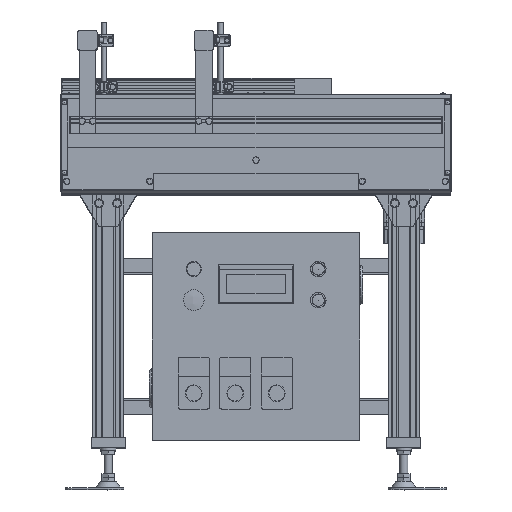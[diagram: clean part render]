
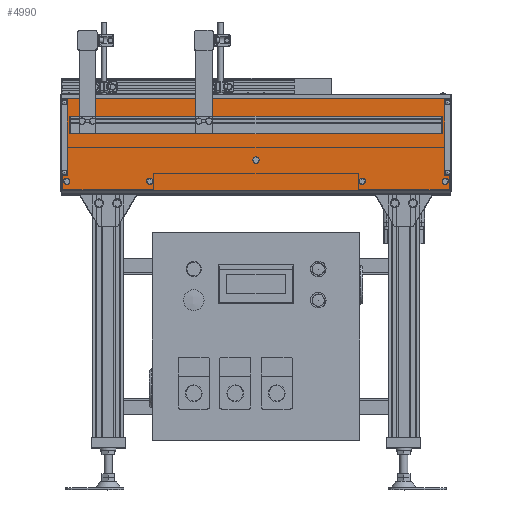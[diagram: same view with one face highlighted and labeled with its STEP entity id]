
A CAD part, top view. The second image highlights one B-rep face of the part: STEP entity #4990.
In plain terms, the highlighted planar face has unit normal (0, 0, 1).
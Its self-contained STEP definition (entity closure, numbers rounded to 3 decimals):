
#4990=ADVANCED_FACE('',(#32069,#32070,#32071,#32072,#32073,#32074,#32075),#32068,.F.);
#32068=PLANE('',#59123);
#32069=FACE_OUTER_BOUND('',#59124,.T.);
#32070=FACE_BOUND('',#59125,.T.);
#32071=FACE_BOUND('',#59126,.T.);
#32072=FACE_BOUND('',#59127,.T.);
#32073=FACE_BOUND('',#59128,.T.);
#32074=FACE_BOUND('',#59129,.T.);
#32075=FACE_BOUND('',#59130,.T.);
#59120=CARTESIAN_POINT('',(760.,-184.,388.3));
#59121=DIRECTION('',(0.,0.,-1.));
#59122=DIRECTION('',(-1.,0.,0.));
#59123=AXIS2_PLACEMENT_3D('',#59120,#59121,#59122);
#59124=EDGE_LOOP('',(#79356,#79357,#79358,#79359));
#59125=EDGE_LOOP('',(#79360,#79361));
#59126=EDGE_LOOP('',(#79362,#79363));
#59127=EDGE_LOOP('',(#79364,#79365));
#59128=EDGE_LOOP('',(#79366,#79367));
#59129=EDGE_LOOP('',(#79368,#79369));
#59130=EDGE_LOOP('',(#79370,#79371,#79372,#79373));
#79356=ORIENTED_EDGE('',*,*,#93056,.T.);
#79357=ORIENTED_EDGE('',*,*,#93099,.T.);
#79358=ORIENTED_EDGE('',*,*,#93114,.F.);
#79359=ORIENTED_EDGE('',*,*,#93092,.F.);
#79360=ORIENTED_EDGE('',*,*,#93115,.F.);
#79361=ORIENTED_EDGE('',*,*,#93116,.F.);
#79362=ORIENTED_EDGE('',*,*,#93117,.F.);
#79363=ORIENTED_EDGE('',*,*,#93118,.F.);
#79364=ORIENTED_EDGE('',*,*,#93119,.T.);
#79365=ORIENTED_EDGE('',*,*,#93120,.T.);
#79366=ORIENTED_EDGE('',*,*,#93121,.T.);
#79367=ORIENTED_EDGE('',*,*,#93122,.T.);
#79368=ORIENTED_EDGE('',*,*,#93123,.F.);
#79369=ORIENTED_EDGE('',*,*,#93124,.F.);
#79370=ORIENTED_EDGE('',*,*,#93125,.F.);
#79371=ORIENTED_EDGE('',*,*,#93126,.F.);
#79372=ORIENTED_EDGE('',*,*,#93127,.F.);
#79373=ORIENTED_EDGE('',*,*,#93128,.F.);
#93056=EDGE_CURVE('',#141370,#141363,#141371,.T.);
#93092=EDGE_CURVE('',#141370,#141615,#141616,.T.);
#93099=EDGE_CURVE('',#141363,#141663,#141664,.T.);
#93114=EDGE_CURVE('',#141615,#141663,#141759,.T.);
#93115=EDGE_CURVE('',#141765,#141766,#141767,.T.);
#93116=EDGE_CURVE('',#141766,#141765,#141773,.T.);
#93117=EDGE_CURVE('',#141779,#141780,#141781,.T.);
#93118=EDGE_CURVE('',#141780,#141779,#141787,.T.);
#93119=EDGE_CURVE('',#141793,#141794,#141795,.T.);
#93120=EDGE_CURVE('',#141794,#141793,#141801,.T.);
#93121=EDGE_CURVE('',#141807,#141808,#141809,.T.);
#93122=EDGE_CURVE('',#141808,#141807,#141815,.T.);
#93123=EDGE_CURVE('',#141821,#141822,#141823,.T.);
#93124=EDGE_CURVE('',#141822,#141821,#141829,.T.);
#93125=EDGE_CURVE('',#141835,#141836,#141837,.T.);
#93126=EDGE_CURVE('',#141843,#141835,#141844,.T.);
#93127=EDGE_CURVE('',#141850,#141843,#141851,.T.);
#93128=EDGE_CURVE('',#141836,#141850,#141857,.T.);
#141363=VERTEX_POINT('',#192411);
#141370=VERTEX_POINT('',#192415);
#141371=LINE('',#192416,#192417);
#141615=VERTEX_POINT('',#192560);
#141616=LINE('',#192561,#192562);
#141663=VERTEX_POINT('',#192587);
#141664=LINE('',#192588,#192589);
#141759=LINE('',#192638,#192639);
#141765=VERTEX_POINT('',#192641);
#141766=VERTEX_POINT('',#192642);
#141767=CIRCLE('',#192646,6.1);
#141773=CIRCLE('',#192650,6.1);
#141779=VERTEX_POINT('',#192651);
#141780=VERTEX_POINT('',#192652);
#141781=CIRCLE('',#192656,6.1);
#141787=CIRCLE('',#192660,6.1);
#141793=VERTEX_POINT('',#192661);
#141794=VERTEX_POINT('',#192662);
#141795=CIRCLE('',#192666,6.1);
#141801=CIRCLE('',#192670,6.1);
#141807=VERTEX_POINT('',#192671);
#141808=VERTEX_POINT('',#192672);
#141809=CIRCLE('',#192676,6.1);
#141815=CIRCLE('',#192680,6.1);
#141821=VERTEX_POINT('',#192681);
#141822=VERTEX_POINT('',#192682);
#141823=CIRCLE('',#192686,6.1);
#141829=CIRCLE('',#192690,6.1);
#141835=VERTEX_POINT('',#192691);
#141836=VERTEX_POINT('',#192692);
#141837=LINE('',#192693,#192694);
#141843=VERTEX_POINT('',#192696);
#141844=LINE('',#192697,#192698);
#141850=VERTEX_POINT('',#192700);
#141851=LINE('',#192701,#192702);
#141857=LINE('',#192704,#192705);
#192411=CARTESIAN_POINT('',(0.,4.2,388.3));
#192415=CARTESIAN_POINT('',(750.,4.2,388.3));
#192416=CARTESIAN_POINT('',(750.,4.2,388.3));
#192417=VECTOR('',#192418,750.);
#192418=DIRECTION('',(-1.,0.,0.));
#192560=CARTESIAN_POINT('',(750.,-174.,388.3));
#192561=CARTESIAN_POINT('',(750.,4.2,388.3));
#192562=VECTOR('',#192563,178.2);
#192563=DIRECTION('',(0.,-1.,0.));
#192587=CARTESIAN_POINT('',(0.,-174.,388.3));
#192588=CARTESIAN_POINT('',(0.,4.2,388.3));
#192589=VECTOR('',#192590,178.2);
#192590=DIRECTION('',(0.,-1.,0.));
#192638=CARTESIAN_POINT('',(750.,-174.,388.3));
#192639=VECTOR('',#192640,750.);
#192640=DIRECTION('',(-1.,0.,0.));
#192641=CARTESIAN_POINT('',(16.1,-156.,388.3));
#192642=CARTESIAN_POINT('',(3.9,-156.,388.3));
#192643=CARTESIAN_POINT('',(10.,-156.,388.3));
#192644=DIRECTION('',(0.,0.,1.));
#192645=DIRECTION('',(-1.,0.,0.));
#192646=AXIS2_PLACEMENT_3D('',#192643,#192644,#192645);
#192647=CARTESIAN_POINT('',(10.,-156.,388.3));
#192648=DIRECTION('',(0.,0.,1.));
#192649=DIRECTION('',(-1.,0.,0.));
#192650=AXIS2_PLACEMENT_3D('',#192647,#192648,#192649);
#192651=CARTESIAN_POINT('',(176.1,-156.,388.3));
#192652=CARTESIAN_POINT('',(163.9,-156.,388.3));
#192653=CARTESIAN_POINT('',(170.,-156.,388.3));
#192654=DIRECTION('',(0.,0.,1.));
#192655=DIRECTION('',(-1.,0.,0.));
#192656=AXIS2_PLACEMENT_3D('',#192653,#192654,#192655);
#192657=CARTESIAN_POINT('',(170.,-156.,388.3));
#192658=DIRECTION('',(0.,0.,1.));
#192659=DIRECTION('',(-1.,0.,0.));
#192660=AXIS2_PLACEMENT_3D('',#192657,#192658,#192659);
#192661=CARTESIAN_POINT('',(733.9,-156.,388.3));
#192662=CARTESIAN_POINT('',(746.1,-156.,388.3));
#192663=CARTESIAN_POINT('',(740.,-156.,388.3));
#192664=DIRECTION('',(0.,0.,-1.));
#192665=DIRECTION('',(-1.,0.,0.));
#192666=AXIS2_PLACEMENT_3D('',#192663,#192664,#192665);
#192667=CARTESIAN_POINT('',(740.,-156.,388.3));
#192668=DIRECTION('',(0.,0.,-1.));
#192669=DIRECTION('',(-1.,0.,0.));
#192670=AXIS2_PLACEMENT_3D('',#192667,#192668,#192669);
#192671=CARTESIAN_POINT('',(573.9,-156.,388.3));
#192672=CARTESIAN_POINT('',(586.1,-156.,388.3));
#192673=CARTESIAN_POINT('',(580.,-156.,388.3));
#192674=DIRECTION('',(0.,0.,-1.));
#192675=DIRECTION('',(-1.,0.,0.));
#192676=AXIS2_PLACEMENT_3D('',#192673,#192674,#192675);
#192677=CARTESIAN_POINT('',(580.,-156.,388.3));
#192678=DIRECTION('',(0.,0.,-1.));
#192679=DIRECTION('',(-1.,0.,0.));
#192680=AXIS2_PLACEMENT_3D('',#192677,#192678,#192679);
#192681=CARTESIAN_POINT('',(381.1,-115.,388.3));
#192682=CARTESIAN_POINT('',(368.9,-115.,388.3));
#192683=CARTESIAN_POINT('',(375.,-115.,388.3));
#192684=DIRECTION('',(0.,0.,1.));
#192685=DIRECTION('',(-1.,0.,0.));
#192686=AXIS2_PLACEMENT_3D('',#192683,#192684,#192685);
#192687=CARTESIAN_POINT('',(375.,-115.,388.3));
#192688=DIRECTION('',(0.,0.,1.));
#192689=DIRECTION('',(-1.,0.,0.));
#192690=AXIS2_PLACEMENT_3D('',#192687,#192688,#192689);
#192691=CARTESIAN_POINT('',(17.5,-30.,388.3));
#192692=CARTESIAN_POINT('',(17.5,-64.,388.3));
#192693=CARTESIAN_POINT('',(17.5,-30.,388.3));
#192694=VECTOR('',#192695,34.);
#192695=DIRECTION('',(0.,-1.,0.));
#192696=CARTESIAN_POINT('',(732.5,-30.,388.3));
#192697=CARTESIAN_POINT('',(732.5,-30.,388.3));
#192698=VECTOR('',#192699,715.);
#192699=DIRECTION('',(-1.,0.,0.));
#192700=CARTESIAN_POINT('',(732.5,-64.,388.3));
#192701=CARTESIAN_POINT('',(732.5,-64.,388.3));
#192702=VECTOR('',#192703,34.);
#192703=DIRECTION('',(0.,1.,0.));
#192704=CARTESIAN_POINT('',(17.5,-64.,388.3));
#192705=VECTOR('',#192706,715.);
#192706=DIRECTION('',(1.,0.,0.));
